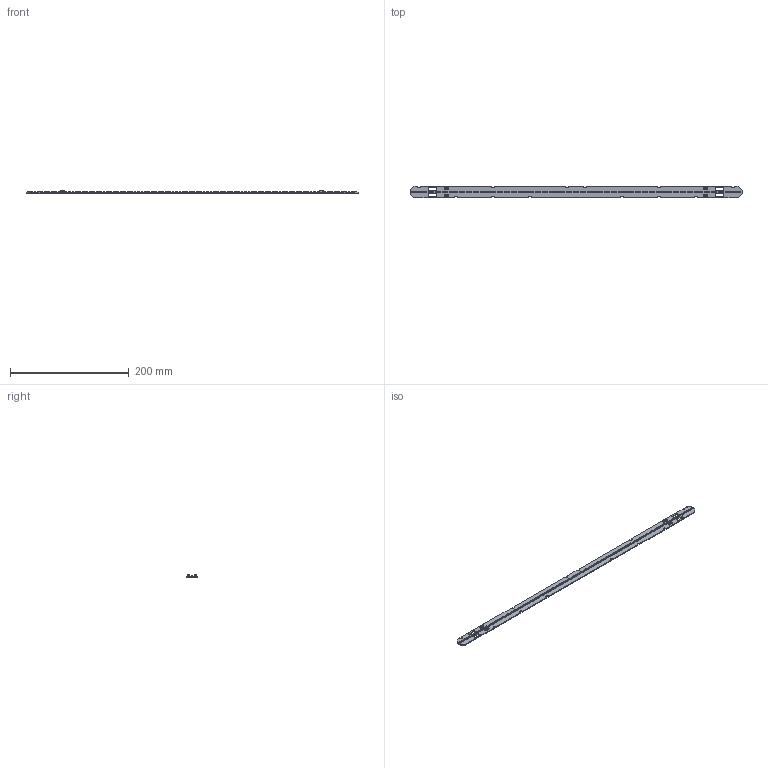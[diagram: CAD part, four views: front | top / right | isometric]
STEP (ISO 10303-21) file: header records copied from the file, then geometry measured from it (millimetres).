
FILE_DESCRIPTION(/* description */ (''),/* implementation_level */ '2;1');
FILE_NAME(/* name */ 'C:\Data\Vault\LE-TPD\4422 960 71520_SB F LED Strip 2ft HF HLD FC LV\4422-960-71520.stp',/* time_stamp */ '2022-08-09T12:52:42+02:00',/* author */ ('670272111'),/* organization */ (''),/* preprocessor_version */ 'ST-DEVELOPER v16.5',/* originating_system */ 'Autodesk Inventor 2017',/* authorisation */ '');
FILE_SCHEMA (('AUTOMOTIVE_DESIGN { 1 0 10303 214 3 1 1 }'));
Products named in the file (1): 4422-960-71520
Bounding box: 559.5 x 20 x 4.3 mm (x, y, z)
Volume: 17825.6 mm3; surface area: 25764.4 mm2
Topology: 1 solids, 193 shells, 7970 faces, 22532 edges, 15012 vertices
Faces by surface type: plane 6490, cylinder 1480
Entity records: 263583 total; most frequent: CARTESIAN_POINT 45515, ORIENTED_EDGE 45064, DIRECTION 41510, EDGE_CURVE 22532, LINE 19496, VECTOR 19496, VERTEX_POINT 15012, AXIS2_PLACEMENT_3D 11007
